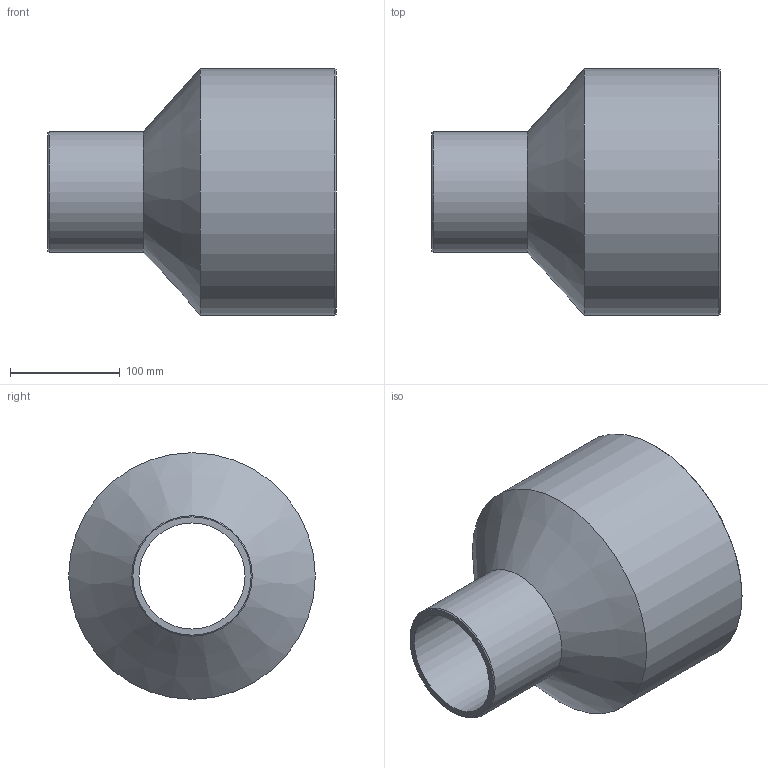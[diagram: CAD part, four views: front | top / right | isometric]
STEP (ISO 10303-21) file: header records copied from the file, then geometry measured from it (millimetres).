
FILE_DESCRIPTION(/* description */ ('Unknown'),/* implementation_level */ '2;1');
FILE_NAME(/* name */ 'RP225110B',/* time_stamp */ '2021-09-17T11:48:29+02:00',/* author */ ('Unknown'),/* organization */ ('Unknown'),/* preprocessor_version */ 'ST-DEVELOPER v16.7',/* originating_system */ 'Solid Edge',/* authorisation */ 'Unknown');
FILE_SCHEMA (('AUTOMOTIVE_DESIGN {1 0 10303 214 3 1 1}'));
Length unit declared in the file: millimetre
Products named in the file (1): RP225110B
Bounding box: 263 x 225 x 225 mm (x, y, z)
Volume: 1772013.4 mm3; surface area: 303140.6 mm2
Topology: 1 solids, 1 shells, 10 faces, 19 edges, 11 vertices
Faces by surface type: cylinder 4, cone 4, plane 2
Full cylindrical faces by diameter (mm): 96.8 x1, 110 x1, 198.2 x1, 225 x1
Entity records: 238 total; most frequent: DIRECTION 42, CARTESIAN_POINT 31, AXIS2_PLACEMENT_3D 21, ORIENTED_EDGE 20, EDGE_LOOP 20, FACE_BOUND 20, EDGE_CURVE 10, VERTEX_POINT 10
